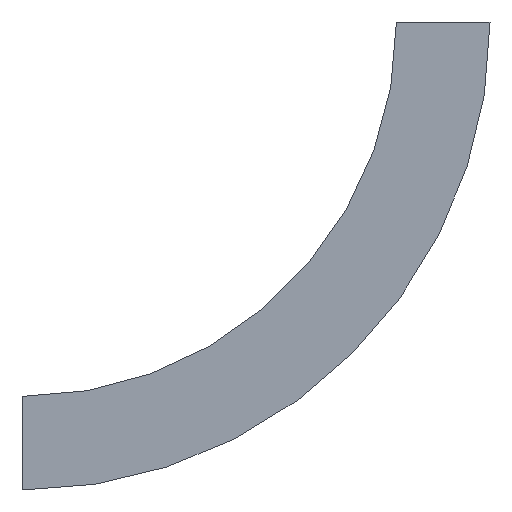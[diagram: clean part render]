
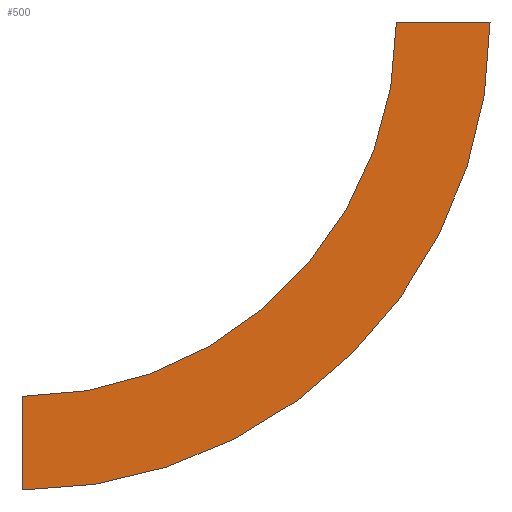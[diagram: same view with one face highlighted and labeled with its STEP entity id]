
A CAD part, left-side view. The second image highlights one B-rep face of the part: STEP entity #500.
In plain terms, the highlighted planar face has unit normal (-1, 0, 0) as drawn and (1, 0, 0) by its records, which use the part's own axes.
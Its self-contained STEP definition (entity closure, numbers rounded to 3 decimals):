
#17 = VERTEX_POINT ( 'NONE', #532 ) ;
#34 = DIRECTION ( 'NONE',  ( 0., 1., 0. ) ) ;
#58 = EDGE_CURVE ( 'NONE', #555, #17, #432, .T. ) ;
#66 = EDGE_CURVE ( 'NONE', #17, #372, #457, .T. ) ;
#73 = DIRECTION ( 'NONE',  ( 0., 0., 1. ) ) ;
#81 = AXIS2_PLACEMENT_3D ( 'NONE', #115, #258, #73 ) ;
#89 = ORIENTED_EDGE ( 'NONE', *, *, #66, .F. ) ;
#94 = ORIENTED_EDGE ( 'NONE', *, *, #134, .T. ) ;
#100 = EDGE_LOOP ( 'NONE', ( #89, #330, #193, #94 ) ) ;
#115 = CARTESIAN_POINT ( 'NONE',  ( 0., -75., 0. ) ) ;
#134 = EDGE_CURVE ( 'NONE', #465, #372, #385, .T. ) ;
#178 = CARTESIAN_POINT ( 'NONE',  ( 0., 300., -375. ) ) ;
#190 = VECTOR ( 'NONE', #361, 1000. ) ;
#193 = ORIENTED_EDGE ( 'NONE', *, *, #564, .T. ) ;
#202 = PLANE ( 'NONE',  #81 ) ;
#203 = AXIS2_PLACEMENT_3D ( 'NONE', #520, #567, #536 ) ;
#206 = CARTESIAN_POINT ( 'NONE',  ( 0., 300., 0. ) ) ;
#228 = CIRCLE ( 'NONE', #433, 375. ) ;
#258 = DIRECTION ( 'NONE',  ( -1., 0., 0. ) ) ;
#281 = CARTESIAN_POINT ( 'NONE',  ( 0., 300., -300. ) ) ;
#290 = DIRECTION ( 'NONE',  ( 0., -1., 0. ) ) ;
#293 = CARTESIAN_POINT ( 'NONE',  ( 0., -75., 0. ) ) ;
#330 = ORIENTED_EDGE ( 'NONE', *, *, #58, .F. ) ;
#339 = FACE_OUTER_BOUND ( 'NONE', #100, .T. ) ;
#343 = CARTESIAN_POINT ( 'NONE',  ( 0., 300., -375. ) ) ;
#353 = VECTOR ( 'NONE', #34, 1000. ) ;
#361 = DIRECTION ( 'NONE',  ( 0., 0., 1. ) ) ;
#372 = VERTEX_POINT ( 'NONE', #281 ) ;
#385 = LINE ( 'NONE', #178, #190 ) ;
#387 = DIRECTION ( 'NONE',  ( 1., 0., 0. ) ) ;
#390 = CARTESIAN_POINT ( 'NONE',  ( 0., -75., 0. ) ) ;
#432 = LINE ( 'NONE', #390, #353 ) ;
#433 = AXIS2_PLACEMENT_3D ( 'NONE', #206, #387, #290 ) ;
#457 = CIRCLE ( 'NONE', #203, 300. ) ;
#465 = VERTEX_POINT ( 'NONE', #343 ) ;
#500 = ADVANCED_FACE ( 'NONE', ( #339 ), #202, .F. ) ;
#520 = CARTESIAN_POINT ( 'NONE',  ( 0., 300., 0. ) ) ;
#532 = CARTESIAN_POINT ( 'NONE',  ( 0., 0., 0. ) ) ;
#536 = DIRECTION ( 'NONE',  ( 0., -1., 0. ) ) ;
#555 = VERTEX_POINT ( 'NONE', #293 ) ;
#564 = EDGE_CURVE ( 'NONE', #555, #465, #228, .T. ) ;
#567 = DIRECTION ( 'NONE',  ( 1., 0., 0. ) ) ;
